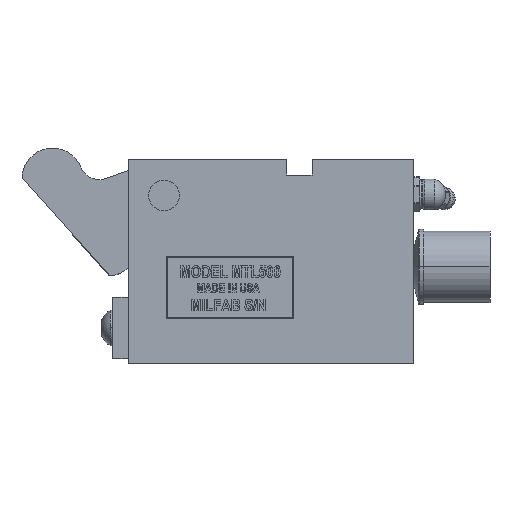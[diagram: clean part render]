
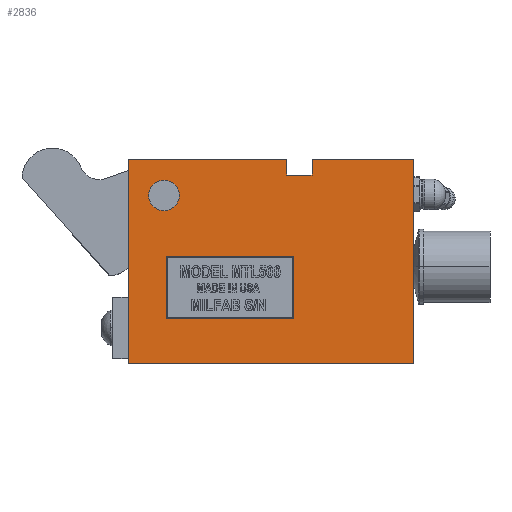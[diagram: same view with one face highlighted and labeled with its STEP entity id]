
A CAD part, top view. The second image highlights one B-rep face of the part: STEP entity #2836.
In plain terms, the highlighted planar face has unit normal (0, 0, 1).
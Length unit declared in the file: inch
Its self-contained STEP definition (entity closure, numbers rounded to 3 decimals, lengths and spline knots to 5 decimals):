
#2454 = EDGE_CURVE ( 'NONE', #2455, #4306, #14501, .T. ) ;
#2455 = VERTEX_POINT ( 'NONE', #14497 ) ;
#2493 = EDGE_CURVE ( 'NONE', #2715, #2455, #14594, .T. ) ;
#2500 = EDGE_CURVE ( 'NONE', #2501, #2959, #14604, .T. ) ;
#2501 = VERTEX_POINT ( 'NONE', #14644 ) ;
#2503 = ORIENTED_EDGE ( 'NONE', *, *, #2505, .F. ) ;
#2505 = EDGE_CURVE ( 'NONE', #2507, #2501, #14638, .T. ) ;
#2507 = VERTEX_POINT ( 'NONE', #14713 ) ;
#2509 = ORIENTED_EDGE ( 'NONE', *, *, #2511, .F. ) ;
#2511 = EDGE_CURVE ( 'NONE', #2967, #2507, #14712, .T. ) ;
#2530 = VERTEX_POINT ( 'NONE', #14803 ) ;
#2585 = VERTEX_POINT ( 'NONE', #14825 ) ;
#2589 = EDGE_CURVE ( 'NONE', #4303, #2585, #14819, .T. ) ;
#2595 = EDGE_LOOP ( 'NONE', ( #2598, #2603 ) ) ;
#2598 = ORIENTED_EDGE ( 'NONE', *, *, #2600, .F. ) ;
#2600 = EDGE_CURVE ( 'NONE', #4204, #4475, #14956, .T. ) ;
#2603 = ORIENTED_EDGE ( 'NONE', *, *, #4218, .F. ) ;
#2605 = EDGE_LOOP ( 'NONE', ( #2606, #2609, #2700, #2702, #2704, #2706, #2708, #2618 ) ) ;
#2606 = ORIENTED_EDGE ( 'NONE', *, *, #2589, .T. ) ;
#2609 = ORIENTED_EDGE ( 'NONE', *, *, #2938, .T. ) ;
#2614 = EDGE_CURVE ( 'NONE', #2530, #4532, #14918, .T. ) ;
#2618 = ORIENTED_EDGE ( 'NONE', *, *, #4305, .T. ) ;
#2626 = EDGE_CURVE ( 'NONE', #4533, #2715, #14897, .T. ) ;
#2700 = ORIENTED_EDGE ( 'NONE', *, *, #2614, .T. ) ;
#2702 = ORIENTED_EDGE ( 'NONE', *, *, #4531, .T. ) ;
#2704 = ORIENTED_EDGE ( 'NONE', *, *, #2626, .T. ) ;
#2706 = ORIENTED_EDGE ( 'NONE', *, *, #2493, .T. ) ;
#2708 = ORIENTED_EDGE ( 'NONE', *, *, #2454, .T. ) ;
#2715 = VERTEX_POINT ( 'NONE', #15025 ) ;
#2836 = ADVANCED_FACE ( 'NONE', ( #15352, #15351, #15350 ), #15349, .F. ) ;
#2837 = EDGE_LOOP ( 'NONE', ( #2958, #2969, #2503, #2509 ) ) ;
#2938 = EDGE_CURVE ( 'NONE', #2585, #2530, #15704, .T. ) ;
#2958 = ORIENTED_EDGE ( 'NONE', *, *, #2966, .F. ) ;
#2959 = VERTEX_POINT ( 'NONE', #15674 ) ;
#2966 = EDGE_CURVE ( 'NONE', #2959, #2967, #15664, .T. ) ;
#2967 = VERTEX_POINT ( 'NONE', #15660 ) ;
#2969 = ORIENTED_EDGE ( 'NONE', *, *, #2500, .F. ) ;
#4204 = VERTEX_POINT ( 'NONE', #22045 ) ;
#4218 = EDGE_CURVE ( 'NONE', #4475, #4204, #22032, .T. ) ;
#4303 = VERTEX_POINT ( 'NONE', #22323 ) ;
#4305 = EDGE_CURVE ( 'NONE', #4306, #4303, #22285, .T. ) ;
#4306 = VERTEX_POINT ( 'NONE', #22378 ) ;
#4475 = VERTEX_POINT ( 'NONE', #22564 ) ;
#4531 = EDGE_CURVE ( 'NONE', #4532, #4533, #22732, .T. ) ;
#4532 = VERTEX_POINT ( 'NONE', #22733 ) ;
#4533 = VERTEX_POINT ( 'NONE', #22718 ) ;
#14497 = CARTESIAN_POINT ( 'NONE',  ( 8.12951, 5.81404, 0. ) ) ;
#14498 = DIRECTION ( 'NONE',  ( 0., 1., 0. ) ) ;
#14499 = VECTOR ( 'NONE', #14498, 39.37008 ) ;
#14500 = CARTESIAN_POINT ( 'NONE',  ( 8.12951, 6.00404, 0. ) ) ;
#14501 = LINE ( 'NONE', #14500, #14499 ) ;
#14591 = DIRECTION ( 'NONE',  ( -1., 0., 0. ) ) ;
#14592 = VECTOR ( 'NONE', #14591, 39.37008 ) ;
#14593 = CARTESIAN_POINT ( 'NONE',  ( 8.12951, 5.81404, 0. ) ) ;
#14594 = LINE ( 'NONE', #14593, #14592 ) ;
#14602 = DIRECTION ( 'NONE',  ( 0., -1., 0. ) ) ;
#14603 = CARTESIAN_POINT ( 'NONE',  ( 6.65951, 4.05404, 0. ) ) ;
#14604 = LINE ( 'NONE', #14603, #14645 ) ;
#14635 = DIRECTION ( 'NONE',  ( -1., 0., 0. ) ) ;
#14636 = VECTOR ( 'NONE', #14635, 39.37008 ) ;
#14637 = CARTESIAN_POINT ( 'NONE',  ( 6.65951, 4.81404, 0. ) ) ;
#14638 = LINE ( 'NONE', #14637, #14636 ) ;
#14644 = CARTESIAN_POINT ( 'NONE',  ( 6.65951, 4.81404, 0. ) ) ;
#14645 = VECTOR ( 'NONE', #14602, 39.37008 ) ;
#14709 = DIRECTION ( 'NONE',  ( 0., 1., 0. ) ) ;
#14710 = VECTOR ( 'NONE', #14709, 39.37008 ) ;
#14711 = CARTESIAN_POINT ( 'NONE',  ( 8.21951, 4.05404, 0. ) ) ;
#14712 = LINE ( 'NONE', #14711, #14710 ) ;
#14713 = CARTESIAN_POINT ( 'NONE',  ( 8.21951, 4.81404, 0. ) ) ;
#14803 = CARTESIAN_POINT ( 'NONE',  ( 9.68951, 3.50404, 0. ) ) ;
#14817 = DIRECTION ( 'NONE',  ( 0., -1., 0. ) ) ;
#14818 = CARTESIAN_POINT ( 'NONE',  ( 6.18951, 3.50404, 0. ) ) ;
#14819 = LINE ( 'NONE', #14818, #14971 ) ;
#14825 = CARTESIAN_POINT ( 'NONE',  ( 6.18951, 3.50404, 0. ) ) ;
#14894 = DIRECTION ( 'NONE',  ( 0., -1., 0. ) ) ;
#14895 = VECTOR ( 'NONE', #14894, 39.37008 ) ;
#14896 = CARTESIAN_POINT ( 'NONE',  ( 8.44151, 5.81404, 0. ) ) ;
#14897 = LINE ( 'NONE', #14896, #14895 ) ;
#14915 = DIRECTION ( 'NONE',  ( 0., 1., 0. ) ) ;
#14916 = VECTOR ( 'NONE', #14915, 39.37008 ) ;
#14917 = CARTESIAN_POINT ( 'NONE',  ( 9.68951, 3.50404, 0. ) ) ;
#14918 = LINE ( 'NONE', #14917, #14916 ) ;
#14952 = DIRECTION ( 'NONE',  ( 1., 0., 0. ) ) ;
#14953 = DIRECTION ( 'NONE',  ( 0., 0., 1. ) ) ;
#14954 = CARTESIAN_POINT ( 'NONE',  ( 6.62701, 5.56404, 0. ) ) ;
#14955 = AXIS2_PLACEMENT_3D ( 'NONE', #14954, #14953, #14952 ) ;
#14956 = CIRCLE ( 'NONE', #14955, 0.1875 ) ;
#14971 = VECTOR ( 'NONE', #14817, 39.37008 ) ;
#15025 = CARTESIAN_POINT ( 'NONE',  ( 8.44151, 5.81404, 0. ) ) ;
#15344 = DIRECTION ( 'NONE',  ( -1., 0., 0. ) ) ;
#15345 = DIRECTION ( 'NONE',  ( 0., 0., -1. ) ) ;
#15346 = CARTESIAN_POINT ( 'NONE',  ( 6.18951, 6.00404, 0. ) ) ;
#15348 = AXIS2_PLACEMENT_3D ( 'NONE', #15346, #15345, #15344 ) ;
#15349 = PLANE ( 'NONE',  #15348 ) ;
#15350 = FACE_OUTER_BOUND ( 'NONE', #2605, .T. ) ;
#15351 = FACE_BOUND ( 'NONE', #2595, .T. ) ;
#15352 = FACE_BOUND ( 'NONE', #2837, .T. ) ;
#15594 = DIRECTION ( 'NONE',  ( 1., 0., 0. ) ) ;
#15660 = CARTESIAN_POINT ( 'NONE',  ( 8.21951, 4.05404, 0. ) ) ;
#15661 = DIRECTION ( 'NONE',  ( 1., 0., 0. ) ) ;
#15662 = VECTOR ( 'NONE', #15661, 39.37008 ) ;
#15663 = CARTESIAN_POINT ( 'NONE',  ( 6.65951, 4.05404, 0. ) ) ;
#15664 = LINE ( 'NONE', #15663, #15662 ) ;
#15674 = CARTESIAN_POINT ( 'NONE',  ( 6.65951, 4.05404, 0. ) ) ;
#15702 = VECTOR ( 'NONE', #15594, 39.37008 ) ;
#15703 = CARTESIAN_POINT ( 'NONE',  ( 6.18951, 3.50404, 0. ) ) ;
#15704 = LINE ( 'NONE', #15703, #15702 ) ;
#22032 = CIRCLE ( 'NONE', #22150, 0.1875 ) ;
#22045 = CARTESIAN_POINT ( 'NONE',  ( 6.81451, 5.56404, 0. ) ) ;
#22140 = DIRECTION ( 'NONE',  ( 1., 0., 0. ) ) ;
#22141 = DIRECTION ( 'NONE',  ( 0., 0., 1. ) ) ;
#22149 = CARTESIAN_POINT ( 'NONE',  ( 6.62701, 5.56404, 0. ) ) ;
#22150 = AXIS2_PLACEMENT_3D ( 'NONE', #22149, #22141, #22140 ) ;
#22282 = DIRECTION ( 'NONE',  ( -1., 0., 0. ) ) ;
#22283 = VECTOR ( 'NONE', #22282, 39.37008 ) ;
#22284 = CARTESIAN_POINT ( 'NONE',  ( 6.18951, 6.00404, 0. ) ) ;
#22285 = LINE ( 'NONE', #22284, #22283 ) ;
#22323 = CARTESIAN_POINT ( 'NONE',  ( 6.18951, 6.00404, 0. ) ) ;
#22378 = CARTESIAN_POINT ( 'NONE',  ( 8.12951, 6.00404, 0. ) ) ;
#22564 = CARTESIAN_POINT ( 'NONE',  ( 6.43951, 5.56404, 0. ) ) ;
#22718 = CARTESIAN_POINT ( 'NONE',  ( 8.44151, 6.00404, 0. ) ) ;
#22719 = DIRECTION ( 'NONE',  ( -1., 0., 0. ) ) ;
#22730 = VECTOR ( 'NONE', #22719, 39.37008 ) ;
#22731 = CARTESIAN_POINT ( 'NONE',  ( 8.44151, 6.00404, 0. ) ) ;
#22732 = LINE ( 'NONE', #22731, #22730 ) ;
#22733 = CARTESIAN_POINT ( 'NONE',  ( 9.68951, 6.00404, 0. ) ) ;
